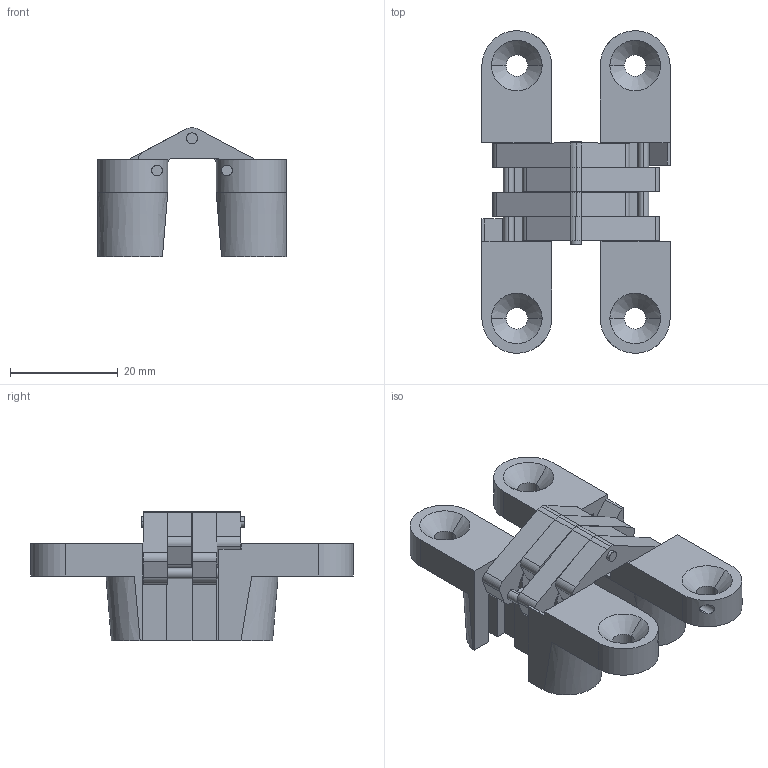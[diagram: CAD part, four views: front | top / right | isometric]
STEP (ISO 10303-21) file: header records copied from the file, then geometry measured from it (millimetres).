
FILE_DESCRIPTION (( 'STEP AP203' ), '1' );
FILE_NAME ('KH-50-2 3D ASS''Y.STEP', '2012-12-26T07:04:21', ( '' ), ( '' ), 'SwSTEP 2.0', 'SolidWorks 2010', '' );
FILE_SCHEMA (( 'CONFIG_CONTROL_DESIGN' ));
Length unit declared in the file: millimetre
Products named in the file (6): KH-50-2 3D ASS''Y; BODY; ARM; ARM PIN; ARM PIN 3; ARM PIN 2
Assembly tree (11 placements, depth 2):
  KH-50-2 3D ASS''Y
    BODY  x2
    ARM PIN 3  x2
    ARM PIN 2  x2
    ARM  x4
    ARM PIN
Bounding box: 35 x 60 x 24 mm (x, y, z)
Volume: 13967.2 mm3; surface area: 11410.5 mm2
Topology: 11 solids, 11 shells, 220 faces, 576 edges, 378 vertices
Faces by surface type: plane 114, cylinder 94, cone 8, bspline 4
Entity records: 3906 total; most frequent: CARTESIAN_POINT 852, DIRECTION 492, ORIENTED_EDGE 456, EDGE_CURVE 228, AXIS2_PLACEMENT_3D 171, LINE 150, VECTOR 150, VERTEX_POINT 149
